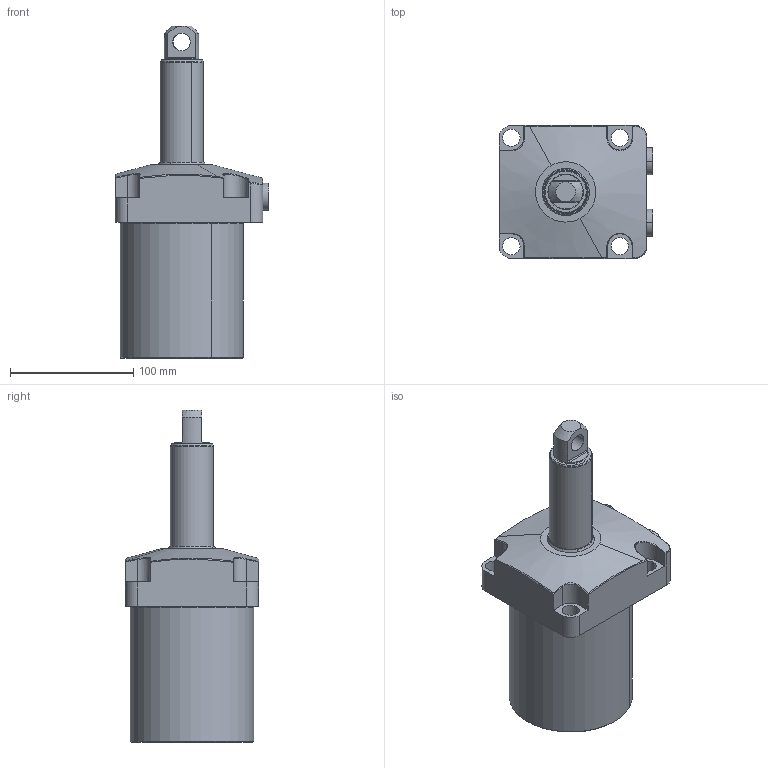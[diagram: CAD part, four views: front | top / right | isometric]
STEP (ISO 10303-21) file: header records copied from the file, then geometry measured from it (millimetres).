
FILE_DESCRIPTION(('CATIA V5 STEP Exchange'),'2;1');
FILE_NAME('C:\Users\kong\Desktop\GCD-25-80X.stp','2014-11-04T06:48:59+00:00',('none'),('none'),'CATIA Version 5 Release 17 (IN-10)','CATIA V5 STEP AP203','none');
FILE_SCHEMA(('CONFIG_CONTROL_DESIGN'));
Length unit declared in the file: millimetre
Products named in the file (1): Product1
Assembly tree (4 placements, depth 2):
  Product1
    #56
    #5374
    #6212  x2
Bounding box: 124.81 x 108 x 269.5 mm (x, y, z)
Volume: 1376627.2 mm3; surface area: 108105.2 mm2
Topology: 4 solids, 4 shells, 169 faces, 416 edges, 270 vertices
Faces by surface type: plane 55, cylinder 52, cone 30, bspline 22, torus 10
Entity records: 6872 total; most frequent: CARTESIAN_POINT 3649, ORIENTED_EDGE 740, DIRECTION 449, EDGE_CURVE 370, VERTEX_POINT 242, AXIS2_PLACEMENT_3D 223, EDGE_LOOP 170, ADVANCED_FACE 147
